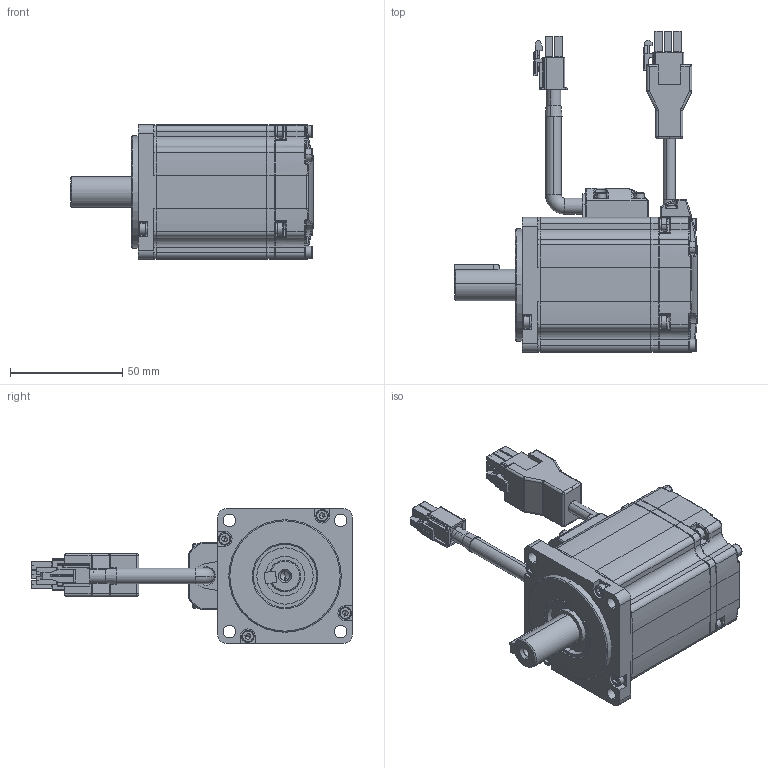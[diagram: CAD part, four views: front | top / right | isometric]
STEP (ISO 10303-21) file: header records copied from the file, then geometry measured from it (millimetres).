
FILE_DESCRIPTION (( 'STEP AP203' ), '1' );
FILE_NAME ('EM3A-02ALA.STEP', '2020-04-10T02:21:40', ( '' ), ( '' ), 'SwSTEP 2.0', 'SolidWorks 2018', '' );
FILE_SCHEMA (( 'CONFIG_CONTROL_DESIGN' ));
Length unit declared in the file: millimetre
Products named in the file (24): 晤鎢傷辿盄; M3-12LD; 粣  EM3A02A-310-A5-S1; 4X0.75+2X0.35（申远电缆）_不带抱闸; hexagon socket head cap screws gb_GB_FASTENER_SCREWS_HSHCS M2.5X12-NHDA; EM3A02A-210-A-S2（机壳）_211 机壳; 热缩套管（直径8黑色）; cross recessed pan head tapping screws gb_GB_CROSS_SCREWS_TYPE128 ST2.2X9.5 H C-NBX; 埴芛す瑩5X20; 172167-1ㄗAMPㄘ; EM3A04A-130-A6（后端盖）; EM3A04A-280-A-S1（电源引线垫）; 雄薯辿盄; WA14｡ﾁ28｡ﾁ4 FKM; EM3A04A-270-A-S2（电源引线盒）; EM3A04A-410-A-S2（编码器罩）_B2; 萇擢; EM3A04A-420-A-S1（编码器引线盒）; EM3A-02ALA; 脣芛誘杶; spring lock washers--normal type gb_GB_FASTENER_WASHER_SW 3BX; 172169-1ㄗAMPㄘ; hexagon socket head cap screws gb_GB_FASTENER_SCREWS_HSHCS M3X12-NHDA; EM3A04A-120-A1（前端盖）
Assembly tree (38 placements, depth 3):
  EM3A-02ALA
    EM3A04A-120-A1（前端盖）
    粣  EM3A02A-310-A5-S1
    EM3A02A-210-A-S2（机壳）_211 机壳
    埴芛す瑩5X20
    EM3A04A-280-A-S1（电源引线垫）
    EM3A04A-270-A-S2（电源引线盒）
    EM3A04A-420-A-S1（编码器引线盒）
    M3-12LD  x8
      spring lock washers--normal type gb_GB_FASTENER_WASHER_SW 3BX
      hexagon socket head cap screws gb_GB_FASTENER_SCREWS_HSHCS M3X12-NHDA
    hexagon socket head cap screws gb_GB_FASTENER_SCREWS_HSHCS M2.5X12-NHDA  x4
    cross recessed pan head tapping screws gb_GB_CROSS_SCREWS_TYPE128 ST2.2X9.5 H C-NBX  x2
    EM3A04A-130-A6（后端盖）
    WA14｡ﾁ28｡ﾁ4 FKM
    晤鎢傷辿盄
      萇擢
      脣芛誘杶
      172169-1ㄗAMPㄘ
    雄薯辿盄
      4X0.75+2X0.35（申远电缆）_不带抱闸
      热缩套管（直径8黑色）
      172167-1ㄗAMPㄘ
    EM3A04A-410-A-S2（编码器罩）_B2
    hexagon socket head cap screws gb_GB_FASTENER_SCREWS_HSHCS M3X12-NHDA  x4
Bounding box: 108 x 142.7 x 60 mm (x, y, z)
Volume: 138572.8 mm3; surface area: 84911.1 mm2
Topology: 42 solids, 42 shells, 2409 faces, 5935 edges, 3652 vertices
Faces by surface type: plane 1142, cylinder 716, cone 241, torus 158, bspline 105, sphere 47
Entity records: 63477 total; most frequent: CARTESIAN_POINT 13930, DIRECTION 9738, ORIENTED_EDGE 9730, EDGE_CURVE 4865, AXIS2_PLACEMENT_3D 3464, VERTEX_POINT 3041, LINE 2810, VECTOR 2810
